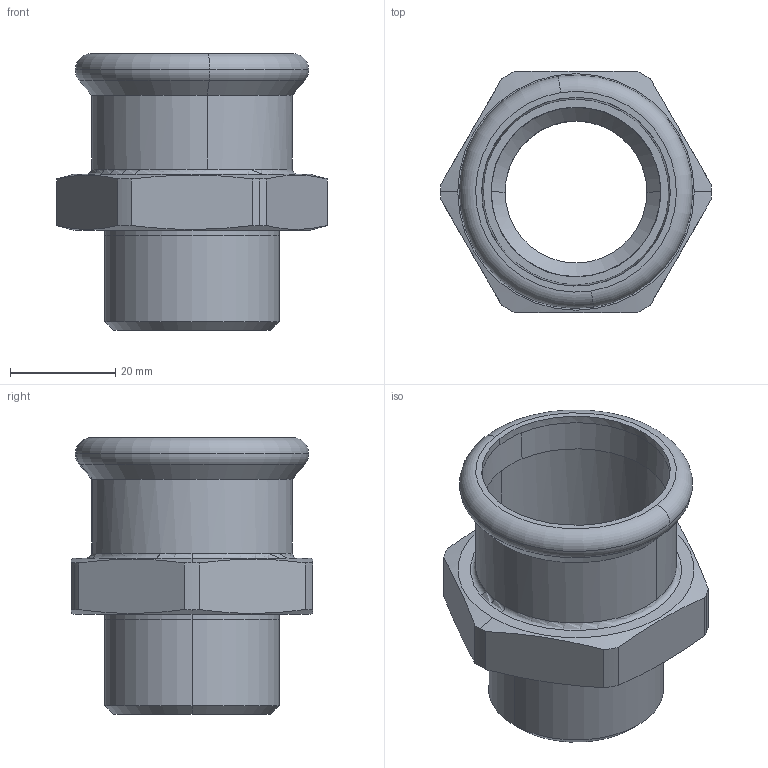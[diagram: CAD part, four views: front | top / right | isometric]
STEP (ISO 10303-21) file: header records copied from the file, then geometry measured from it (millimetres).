
FILE_DESCRIPTION(('CoCreate Modeling STEP Export'),'2;1');
FILE_NAME('C1405 35xR1.stp','2015-08-10T15:09:30',(''),(''),'CoCreate Modeling STEP processor for AP214 (Solid Model)','CoCreate Modeling 17.00A 17-Jun-2010 (C) Parametric Technology GmbH','');
FILE_SCHEMA(('AUTOMOTIVE_DESIGN { 1 0 10303 214 1 1 1 1 }'));
Length unit declared in the file: millimetre
Products named in the file (2): 624142.2; C1405-35xR1
Assembly tree (1 placements, depth 2):
  C1405-35xR1
    624142.2
Bounding box: 51.5 x 46 x 52.7 mm (x, y, z)
Volume: 22758.2 mm3; surface area: 14122.5 mm2
Topology: 1 solids, 1 shells, 55 faces, 144 edges, 94 vertices
Faces by surface type: cylinder 24, cone 14, plane 11, torus 6
Entity records: 2141 total; most frequent: CARTESIAN_POINT 941, ORIENTED_EDGE 288, DIRECTION 186, EDGE_CURVE 144, VERTEX_POINT 94, AXIS2_PLACEMENT_3D 71, EDGE_LOOP 60, FACE_OUTER_BOUND 55
